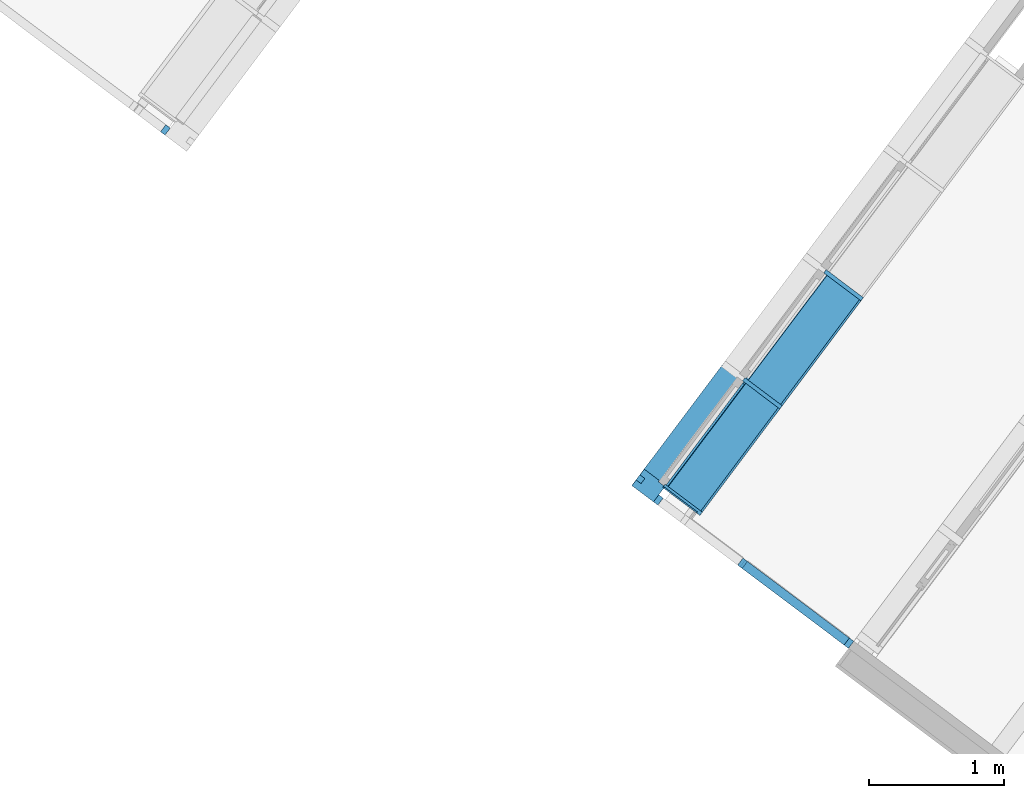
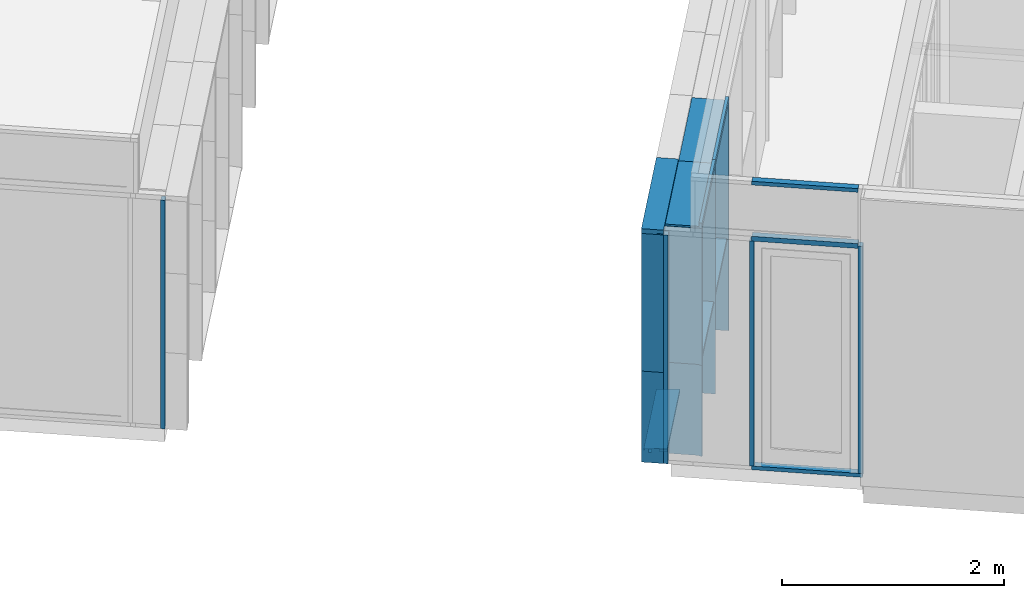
# One storey, part 1 of 243: 21 members, 4 elements without a shape of their own.
"""IFC2X3 building model written with IfcOpenShell, lengths in metres."""

from ifc_helpers import new_model, entity, si_unit, converted_unit, derived_unit, direction, frame, frame_2d, origin, place, context, subcontext, project, spatial, polyline, circle_curve, parameter, trimmed, segment, composite_curve, rectangle, outline, extrude, source, transform, mapped, material, type_object, type_shapes, element, aggregate, save


model = new_model("IFC2X3")

# Units and contexts
model_context = context("Model", 3, precision=1e-05, world=origin(), true_north=direction((6.123031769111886e-17, 1.0)))
body_context = subcontext(model_context, "Body", "Model", "MODEL_VIEW")
ifc_project = project(units=[si_unit("LENGTHUNIT", "METRE"), si_unit("AREAUNIT", "SQUARE_METRE"), si_unit("VOLUMEUNIT", "CUBIC_METRE"), converted_unit("PLANEANGLEUNIT", "DEGREE", entity("IfcRatioMeasure", 0.017453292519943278), si_unit("PLANEANGLEUNIT", "RADIAN"), dimensions=[0, 0, 0, 0, 0, 0, 0]), si_unit("MASSUNIT", "GRAM", prefix="KILO"), derived_unit("MASSDENSITYUNIT", [(si_unit("MASSUNIT", "GRAM", prefix="KILO"), 1), (si_unit("LENGTHUNIT", "METRE"), -3)]), derived_unit("IONCONCENTRATIONUNIT", [(si_unit("MASSUNIT", "GRAM", prefix="KILO"), 1), (si_unit("LENGTHUNIT", "METRE"), -3)]), derived_unit("MOMENTOFINERTIAUNIT", [(si_unit("LENGTHUNIT", "METRE"), 4)]), si_unit("TIMEUNIT", "SECOND"), si_unit("FREQUENCYUNIT", "HERTZ"), si_unit("THERMODYNAMICTEMPERATUREUNIT", "DEGREE_CELSIUS"), derived_unit("THERMALTRANSMITTANCEUNIT", [(si_unit("MASSUNIT", "GRAM", prefix="KILO"), 1), (si_unit("THERMODYNAMICTEMPERATUREUNIT", "KELVIN"), -1), (si_unit("TIMEUNIT", "SECOND"), -3)]), derived_unit("THERMALCONDUCTANCEUNIT", [(si_unit("MASSUNIT", "GRAM", prefix="KILO"), 1), (si_unit("THERMODYNAMICTEMPERATUREUNIT", "KELVIN"), -1), (si_unit("TIMEUNIT", "SECOND"), -3), (si_unit("LENGTHUNIT", "METRE"), 1)]), derived_unit("VOLUMETRICFLOWRATEUNIT", [(si_unit("LENGTHUNIT", "METRE"), 3), (si_unit("TIMEUNIT", "SECOND"), -1)]), derived_unit("MASSFLOWRATEUNIT", [(si_unit("MASSUNIT", "GRAM", prefix="KILO"), 1), (si_unit("TIMEUNIT", "SECOND"), -1)]), derived_unit("ROTATIONALFREQUENCYUNIT", [(si_unit("TIMEUNIT", "SECOND"), -1)]), si_unit("ELECTRICCURRENTUNIT", "AMPERE"), si_unit("ELECTRICVOLTAGEUNIT", "VOLT"), si_unit("POWERUNIT", "WATT"), si_unit("FORCEUNIT", "NEWTON", prefix="KILO"), si_unit("ILLUMINANCEUNIT", "LUX"), si_unit("LUMINOUSFLUXUNIT", "LUMEN"), si_unit("LUMINOUSINTENSITYUNIT", "CANDELA"), derived_unit("USERDEFINED", [(si_unit("MASSUNIT", "GRAM", prefix="KILO"), -1), (si_unit("LENGTHUNIT", "METRE"), -2), (si_unit("TIMEUNIT", "SECOND"), 3), (si_unit("LUMINOUSFLUXUNIT", "LUMEN"), 1)]), derived_unit("USERDEFINED", [(si_unit("MASSUNIT", "GRAM", prefix="KILO"), 1), (si_unit("TIMEUNIT", "SECOND"), -3), (si_unit("LENGTHUNIT", "METRE"), 3), (si_unit("ELECTRICCURRENTUNIT", "AMPERE"), -2)]), derived_unit("SOUNDPOWERUNIT", [(si_unit("MASSUNIT", "GRAM", prefix="KILO"), 1), (si_unit("TIMEUNIT", "SECOND"), -3), (si_unit("LENGTHUNIT", "METRE"), 2)]), derived_unit("SOUNDPRESSUREUNIT", [(si_unit("MASSUNIT", "GRAM", prefix="KILO"), 1), (si_unit("LENGTHUNIT", "METRE"), -1), (si_unit("TIMEUNIT", "SECOND"), -2)]), derived_unit("LINEARVELOCITYUNIT", [(si_unit("LENGTHUNIT", "METRE"), 1), (si_unit("TIMEUNIT", "SECOND"), -1)]), si_unit("PRESSUREUNIT", "PASCAL"), derived_unit("USERDEFINED", [(si_unit("MASSUNIT", "GRAM", prefix="KILO"), 1), (si_unit("LENGTHUNIT", "METRE"), -2), (si_unit("TIMEUNIT", "SECOND"), -2)]), derived_unit("LINEARFORCEUNIT", [(si_unit("MASSUNIT", "GRAM", prefix="KILO"), 1), (si_unit("TIMEUNIT", "SECOND"), -2)]), derived_unit("PLANARFORCEUNIT", [(si_unit("MASSUNIT", "GRAM", prefix="KILO"), 1), (si_unit("LENGTHUNIT", "METRE"), -1), (si_unit("TIMEUNIT", "SECOND"), -2)]), derived_unit("SPECIFICHEATCAPACITYUNIT", [(si_unit("THERMODYNAMICTEMPERATUREUNIT", "KELVIN"), -1), (si_unit("LENGTHUNIT", "METRE"), 2), (si_unit("TIMEUNIT", "SECOND"), -2)]), derived_unit("HEATINGVALUEUNIT", [(si_unit("LENGTHUNIT", "METRE"), 2), (si_unit("TIMEUNIT", "SECOND"), -2)]), derived_unit("VAPORPERMEABILITYUNIT", [(si_unit("LENGTHUNIT", "METRE"), -1), (si_unit("TIMEUNIT", "SECOND"), 1)]), derived_unit("DYNAMICVISCOSITYUNIT", [(si_unit("MASSUNIT", "GRAM", prefix="KILO"), 1), (si_unit("TIMEUNIT", "SECOND"), -1), (si_unit("LENGTHUNIT", "METRE"), -1)]), derived_unit("THERMALEXPANSIONCOEFFICIENTUNIT", [(si_unit("THERMODYNAMICTEMPERATUREUNIT", "KELVIN"), -1)]), derived_unit("MODULUSOFELASTICITYUNIT", [(si_unit("MASSUNIT", "GRAM", prefix="KILO"), 1), (si_unit("LENGTHUNIT", "METRE"), -1), (si_unit("TIMEUNIT", "SECOND"), -2)]), derived_unit("ISOTHERMALMOISTURECAPACITYUNIT", [(si_unit("LENGTHUNIT", "METRE"), 3), (si_unit("MASSUNIT", "GRAM", prefix="KILO"), -1)]), derived_unit("MOISTUREDIFFUSIVITYUNIT", [(si_unit("TIMEUNIT", "SECOND"), -1), (si_unit("LENGTHUNIT", "METRE"), 2)])], contexts=[model_context])

# Site, building, storey
site_placement = place(None, frame((0.0, 0.0, 235.0), z_axis=(0.0, 0.0, 1.0), x_axis=(-0.7996477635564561, 0.6004693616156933, 0.0)))
site = spatial("IfcSite", under=ifc_project, at=site_placement, Name="Default", CompositionType="ELEMENT")
building_placement = place(site_placement, origin())
building = spatial("IfcBuilding", under=site, at=building_placement, CompositionType="ELEMENT")
storey_placement = place(building_placement, origin())
storey = spatial("IfcBuildingStorey", under=building, at=storey_placement, Name="P0- Escola", CompositionType="ELEMENT", Elevation=0.0)

# Curtain wall, members
curtain_wall_type_1 = type_object("IfcCurtainWallType", Name="Muro cortina:MC- INT- k2", PredefinedType="NOTDEFINED")
curtain_wall_1_placement = place(storey_placement, origin())
curtain_wall_1 = element("IfcCurtainWall", 1, at=curtain_wall_1_placement, inside=storey, type_object=curtain_wall_type_1, Name="Muro cortina:MC- INT- k2", ObjectType="Muro cortina:MC- INT- k2")
ifc_material_1 = material(Name="_Fusta massisa- T1")
member_type_1 = type_object("IfcMemberType", Name="Montante rectangular:MC- Fusta- 35x3 cm- Pati aules- Remat esquerra", PredefinedType="MULLION", material=ifc_material_1)
shared_shape_1 = source(origin(), body_context, "Body", "SweptSolid", [
    extrude(outline(polyline([(-0.12500000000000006, -0.01666666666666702), (0.22000000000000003, -0.01666666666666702), (0.22000000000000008, 0.003333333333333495), (-0.09499999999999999, 0.003333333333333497), (-0.09500000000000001, 0.013333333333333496), (-0.12499999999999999, 0.013333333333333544), (-0.12500000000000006, -0.01666666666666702)])), frame((-0.013333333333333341, -0.030000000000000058, -1.5049999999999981), z_axis=(0.0, 0.0, 1.0), x_axis=(0.0, -1.0, 0.0)), (0.0, 0.0, 1.0), 1.5049999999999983),
])
type_shapes(member_type_1, [shared_shape_1])
member_1_placement = place(curtain_wall_1_placement, frame((36.345147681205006, -20.415191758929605, 2.5049999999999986), z_axis=(0.0, 0.0, 1.0), x_axis=(0.0, 1.0, 0.0)))
member_1 = element("IfcMember", 2, at=member_1_placement, type_object=member_type_1, material=ifc_material_1, Name="Montante rectangular:MC- Fusta- 35x3 cm- Pati aules- Remat esquerra", ObjectType="Montante rectangular:MC- Fusta- 35x3 cm- Pati aules- Remat esquerra", context=body_context, shape_type="MappedRepresentation", body=[
    mapped(shared_shape_1, transform((0.0, 0.0, 0.0), scale=1.0)),
])
member_type_2 = type_object("IfcMemberType", Name="Montante rectangular:MC- Fusta- 35x3 cm- Pati aules- Remat superior", PredefinedType="MULLION", material=ifc_material_1)
shared_shape_2 = source(origin(), body_context, "Body", "SweptSolid", [
    extrude(outline(polyline([(-0.12166666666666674, -0.02666666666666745), (0.21333333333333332, -0.02666666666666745), (0.2133333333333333, -0.006666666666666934), (-0.09166666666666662, -0.006666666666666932), (-0.09166666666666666, 0.03333333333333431), (-0.12166666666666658, 0.03333333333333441), (-0.12166666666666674, -0.02666666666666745)])), frame((-0.033333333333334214, -0.026666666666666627, -1.0), z_axis=(0.0, 0.0, 1.0), x_axis=(0.0, -1.0, 0.0)), (0.0, 0.0, 1.0), 0.9999999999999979),
])
type_shapes(member_type_2, [shared_shape_2])
member_2_placement = place(curtain_wall_1_placement, frame((36.345147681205, -21.415191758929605, 2.565), z_axis=(0.0, -1.0, 0.0), x_axis=(0.0, 0.0, 1.0)))
member_2 = element("IfcMember", 3, at=member_2_placement, type_object=member_type_2, material=ifc_material_1, Name="Montante rectangular:MC- Fusta- 35x3 cm- Pati aules- Remat superior", ObjectType="Montante rectangular:MC- Fusta- 35x3 cm- Pati aules- Remat superior", context=body_context, shape_type="MappedRepresentation", body=[
    mapped(shared_shape_2, transform((0.0, 0.0, 0.0), scale=1.0)),
])
member_type_3 = type_object("IfcMemberType", Name="Montante rectangular:MC- Fusta- 35x3 cm- Centre", PredefinedType="MULLION", material=ifc_material_1)
shared_shape_3 = source(origin(), body_context, "Body", "SweptSolid", [
    extrude(rectangle(XDim=0.3450000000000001, YDim=0.030000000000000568, at=frame_2d((0.0, -1.3964523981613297e-16), x_axis=(1.0, 0.0))), frame((0.0, -0.07750000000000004, -1.0), z_axis=(0.0, 0.0, 1.0), x_axis=(0.0, -1.0, 0.0)), (0.0, 0.0, 1.0), 1.0),
])
type_shapes(member_type_3, [shared_shape_3])
member_3_placement = place(curtain_wall_1_placement, frame((36.345147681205, -21.415191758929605, 0.0), z_axis=(0.0, 0.0, -1.0), x_axis=(0.0, -1.0, 0.0)))
member_3 = element("IfcMember", 4, at=member_3_placement, type_object=member_type_3, material=ifc_material_1, Name="Montante rectangular:MC- Fusta- 35x3 cm- Centre", ObjectType="Montante rectangular:MC- Fusta- 35x3 cm- Centre", context=body_context, shape_type="MappedRepresentation", body=[
    mapped(shared_shape_3, transform((0.0, 0.0, 0.0), scale=1.0)),
])
member_4_placement = place(curtain_wall_1_placement, frame((36.345147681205, -22.415191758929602, 0.0), z_axis=(0.0, 0.0, -1.0), x_axis=(0.0, -1.0, 0.0)))
member_4 = element("IfcMember", 5, at=member_4_placement, type_object=member_type_3, material=ifc_material_1, Name="Montante rectangular:MC- Fusta- 35x3 cm- Centre", ObjectType="Montante rectangular:MC- Fusta- 35x3 cm- Centre", context=body_context, shape_type="MappedRepresentation", body=[
    mapped(shared_shape_3, transform((0.0, 0.0, 0.0), scale=1.0)),
])
member_type_4 = type_object("IfcMemberType", Name="Montante rectangular:MC- Fusta- 35x3 cm- Pati aules- Remat superior", PredefinedType="MULLION", material=ifc_material_1)
shared_shape_4 = source(origin(), body_context, "Body", "SweptSolid", [
    extrude(outline(polyline([(-0.12166666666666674, -0.02666666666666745), (0.21333333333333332, -0.02666666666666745), (0.2133333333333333, -0.006666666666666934), (-0.09166666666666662, -0.006666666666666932), (-0.09166666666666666, 0.03333333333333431), (-0.12166666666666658, 0.03333333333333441), (-0.12166666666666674, -0.02666666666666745)])), frame((-0.033333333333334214, -0.026666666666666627, -1.0), z_axis=(0.0, 0.0, 1.0), x_axis=(0.0, -1.0, 0.0)), (0.0, 0.0, 1.0), 0.9999999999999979),
])
type_shapes(member_type_4, [shared_shape_4])
member_5_placement = place(curtain_wall_1_placement, frame((36.345147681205, -22.415191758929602, 2.565), z_axis=(0.0, -1.0, 0.0), x_axis=(0.0, 0.0, 1.0)))
member_5 = element("IfcMember", 6, at=member_5_placement, type_object=member_type_4, material=ifc_material_1, Name="Montante rectangular:MC- Fusta- 35x3 cm- Pati aules- Remat superior", ObjectType="Montante rectangular:MC- Fusta- 35x3 cm- Pati aules- Remat superior", context=body_context, shape_type="MappedRepresentation", body=[
    mapped(shared_shape_4, transform((0.0, 0.0, 0.0), scale=1.0)),
])
member_type_5 = type_object("IfcMemberType", Name="Montante rectangular:MC- Fusta- 35x3 cm- Pati aules- Remat esquerra", PredefinedType="MULLION", material=ifc_material_1)
shared_shape_5 = source(origin(), body_context, "Body", "SweptSolid", [
    extrude(outline(polyline([(-0.12500000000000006, -0.01666666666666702), (0.22000000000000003, -0.01666666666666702), (0.22000000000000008, 0.003333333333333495), (-0.09499999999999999, 0.003333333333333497), (-0.09500000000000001, 0.013333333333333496), (-0.12499999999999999, 0.013333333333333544), (-0.12500000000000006, -0.01666666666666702)])), frame((-0.013333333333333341, -0.030000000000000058, -1.0), z_axis=(0.0, 0.0, 1.0), x_axis=(0.0, -1.0, 0.0)), (0.0, 0.0, 1.0), 0.9999999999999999),
])
type_shapes(member_type_5, [shared_shape_5])
member_6_placement = place(curtain_wall_1_placement, frame((36.345147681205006, -20.415191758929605, 1.0), z_axis=(0.0, 0.0, 1.0), x_axis=(0.0, 1.0, 0.0)))
member_6 = element("IfcMember", 7, at=member_6_placement, type_object=member_type_5, material=ifc_material_1, Name="Montante rectangular:MC- Fusta- 35x3 cm- Pati aules- Remat esquerra", ObjectType="Montante rectangular:MC- Fusta- 35x3 cm- Pati aules- Remat esquerra", context=body_context, shape_type="MappedRepresentation", body=[
    mapped(shared_shape_5, transform((0.0, 0.0, 0.0), scale=1.0)),
])
member_type_6 = type_object("IfcMemberType", Name="Montante rectangular:MC- Fusta- 35x3 cm- Pati aules- Prestatge", PredefinedType="MULLION", material=ifc_material_1)
shared_shape_6 = source(origin(), body_context, "Body", "SweptSolid", [
    extrude(rectangle(XDim=0.30000000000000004, YDim=0.03000000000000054, at=frame_2d((0.0, -1.231653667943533e-16), x_axis=(1.0, 0.0))), frame((0.0, -0.07000000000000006, -0.9549999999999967), z_axis=(0.0, 0.0, 1.0), x_axis=(0.0, -1.0, 0.0)), (0.0, 0.0, 1.0), 0.954999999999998),
])
type_shapes(member_type_6, [shared_shape_6])
member_7_placement = place(curtain_wall_1_placement, frame((36.345147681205, -21.4001917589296, 1.0), z_axis=(0.0, -1.0, 0.0), x_axis=(0.0, 0.0, 1.0)))
member_7 = element("IfcMember", 8, at=member_7_placement, type_object=member_type_6, material=ifc_material_1, Name="Montante rectangular:MC- Fusta- 35x3 cm- Pati aules- Prestatge", ObjectType="Montante rectangular:MC- Fusta- 35x3 cm- Pati aules- Prestatge", context=body_context, shape_type="MappedRepresentation", body=[
    mapped(shared_shape_6, transform((0.0, 0.0, 0.0), scale=1.0)),
])
member_type_7 = type_object("IfcMemberType", Name="Montante rectangular:MC- Fusta- 35x3 cm- Pati aules- Prestatge", PredefinedType="MULLION", material=ifc_material_1)
shared_shape_7 = source(origin(), body_context, "Body", "SweptSolid", [
    extrude(rectangle(XDim=0.30000000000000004, YDim=0.03000000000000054, at=frame_2d((0.0, -1.231653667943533e-16), x_axis=(1.0, 0.0))), frame((0.0, -0.07000000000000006, -0.9699999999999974), z_axis=(0.0, 0.0, 1.0), x_axis=(0.0, -1.0, 0.0)), (0.0, 0.0, 1.0), 0.969999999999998),
])
type_shapes(member_type_7, [shared_shape_7])
member_8_placement = place(curtain_wall_1_placement, frame((36.345147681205, -22.4001917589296, 1.0), z_axis=(0.0, -1.0, 0.0), x_axis=(0.0, 0.0, 1.0)))
member_8 = element("IfcMember", 9, at=member_8_placement, type_object=member_type_7, material=ifc_material_1, Name="Montante rectangular:MC- Fusta- 35x3 cm- Pati aules- Prestatge", ObjectType="Montante rectangular:MC- Fusta- 35x3 cm- Pati aules- Prestatge", context=body_context, shape_type="MappedRepresentation", body=[
    mapped(shared_shape_7, transform((0.0, 0.0, 0.0), scale=1.0)),
])
member_type_8 = type_object("IfcMemberType", Name="Montante rectangular:MC- Fusta- 35x3 cm- Centre", PredefinedType="MULLION", material=ifc_material_1)
shared_shape_8 = source(origin(), body_context, "Body", "SweptSolid", [
    extrude(rectangle(XDim=0.3450000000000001, YDim=0.030000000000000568, at=frame_2d((0.0, -1.3964523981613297e-16), x_axis=(1.0, 0.0))), frame((0.0, -0.07750000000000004, -1.504999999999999), z_axis=(0.0, 0.0, 1.0), x_axis=(0.0, -1.0, 0.0)), (0.0, 0.0, 1.0), 1.504999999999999),
])
type_shapes(member_type_8, [shared_shape_8])
member_9_placement = place(curtain_wall_1_placement, frame((36.345147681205, -21.415191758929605, 1.0), z_axis=(0.0, 0.0, -1.0), x_axis=(0.0, -1.0, 0.0)))
member_9 = element("IfcMember", 10, at=member_9_placement, type_object=member_type_8, material=ifc_material_1, Name="Montante rectangular:MC- Fusta- 35x3 cm- Centre", ObjectType="Montante rectangular:MC- Fusta- 35x3 cm- Centre", context=body_context, shape_type="MappedRepresentation", body=[
    mapped(shared_shape_8, transform((0.0, 0.0, 0.0), scale=1.0)),
])
member_10_placement = place(curtain_wall_1_placement, frame((36.345147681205, -22.415191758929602, 1.0), z_axis=(0.0, 0.0, -1.0), x_axis=(0.0, -1.0, 0.0)))
member_10 = element("IfcMember", 11, at=member_10_placement, type_object=member_type_8, material=ifc_material_1, Name="Montante rectangular:MC- Fusta- 35x3 cm- Centre", ObjectType="Montante rectangular:MC- Fusta- 35x3 cm- Centre", context=body_context, shape_type="MappedRepresentation", body=[
    mapped(shared_shape_8, transform((0.0, 0.0, 0.0), scale=1.0)),
])
aggregate(curtain_wall_1, [member_1, member_2, member_3, member_5, member_4, member_6, member_7, member_8, member_9, member_10])

curtain_wall_type_2 = type_object("IfcCurtainWallType", Name="Muro cortina:MC- EXT- AL1- Fa porxo", PredefinedType="NOTDEFINED")
curtain_wall_2_placement = place(storey_placement, origin())
curtain_wall_2 = element("IfcCurtainWall", 12, at=curtain_wall_2_placement, inside=storey, type_object=curtain_wall_type_2, Name="Muro cortina:MC- EXT- AL1- Fa porxo", ObjectType="Muro cortina:MC- EXT- AL1- Fa porxo")
ifc_material_2 = material(Name="_Alumini- T1- Perfil")
member_type_9 = type_object("IfcMemberType", Name="Montante rectangular:MC- Alu- 65x41 cm- Fa Porxo- Centre", PredefinedType="MULLION", material=ifc_material_2)
shared_shape_9 = source(origin(), body_context, "Body", "SweptSolid", [
    extrude(rectangle(XDim=0.06500000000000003, YDim=0.041000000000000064, at=frame_2d((0.0, -8.673617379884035e-18), x_axis=(1.0, 0.0))), frame((-0.020500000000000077, -0.032499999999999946, -0.9639999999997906), z_axis=(0.0, 0.0, 1.0), x_axis=(0.0, -1.0, 0.0)), (0.0, 0.0, 1.0), 0.963999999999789),
])
type_shapes(member_type_9, [shared_shape_9])
member_11_placement = place(curtain_wall_2_placement, frame((34.82114768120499, -20.288941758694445, 3.150000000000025), z_axis=(-1.0, 0.0, 0.0), x_axis=(0.0, 0.0, 1.0)))
member_11 = element("IfcMember", 13, at=member_11_placement, type_object=member_type_9, material=ifc_material_2, Name="Montante rectangular:MC- Alu- 65x41 cm- Fa Porxo- Centre", ObjectType="Montante rectangular:MC- Alu- 65x41 cm- Fa Porxo- Centre", context=body_context, shape_type="MappedRepresentation", body=[
    mapped(shared_shape_9, transform((0.0, 0.0, 0.0), scale=1.0)),
])
member_type_10 = type_object("IfcMemberType", Name="Montante rectangular:MC- Alu- 65x41 cm- Fa Porxo- Centre", PredefinedType="MULLION", material=ifc_material_2)
shared_shape_10 = source(origin(), body_context, "Body", "SweptSolid", [
    extrude(rectangle(XDim=0.06500000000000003, YDim=0.041000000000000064, at=frame_2d((0.0, -8.673617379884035e-18), x_axis=(1.0, 0.0))), frame((-0.020500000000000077, -0.032499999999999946, -2.4977500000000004), z_axis=(0.0, 0.0, 1.0), x_axis=(0.0, -1.0, 0.0)), (0.0, 0.0, 1.0), 2.4977500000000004),
])
type_shapes(member_type_10, [shared_shape_10])
member_12_placement = place(curtain_wall_2_placement, frame((34.780147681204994, -20.288941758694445, 0.021000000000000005), z_axis=(0.0, 0.0, -1.0), x_axis=(-1.0, 0.0, 0.0)))
member_12 = element("IfcMember", 14, at=member_12_placement, type_object=member_type_10, material=ifc_material_2, Name="Montante rectangular:MC- Alu- 65x41 cm- Fa Porxo- Centre", ObjectType="Montante rectangular:MC- Alu- 65x41 cm- Fa Porxo- Centre", context=body_context, shape_type="MappedRepresentation", body=[
    mapped(shared_shape_10, transform((0.0, 0.0, 0.0), scale=1.0)),
])
member_type_11 = type_object("IfcMemberType", Name="Montante rectangular:MC- Alu- 65x41 cm- Fa Porxo- Centre", PredefinedType="MULLION", material=ifc_material_2)
shared_shape_11 = source(origin(), body_context, "Body", "SweptSolid", [
    extrude(rectangle(XDim=0.06500000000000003, YDim=0.041000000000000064, at=frame_2d((3.469446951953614e-18, -5.204170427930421e-18), x_axis=(1.0, 0.0))), frame((-0.020499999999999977, -0.032499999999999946, -2.5122499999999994), z_axis=(0.0, 0.0, 1.0), x_axis=(0.0, -1.0, 0.0)), (0.0, 0.0, 1.0), 2.5122499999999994),
])
type_shapes(member_type_11, [shared_shape_11])
member_13_placement = place(curtain_wall_2_placement, frame((36.58514768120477, -20.28894175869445, 2.49225)))
member_13 = element("IfcMember", 15, at=member_13_placement, type_object=member_type_11, material=ifc_material_2, Name="Montante rectangular:MC- Alu- 65x41 cm- Fa Porxo- Centre", ObjectType="Montante rectangular:MC- Alu- 65x41 cm- Fa Porxo- Centre", context=body_context, shape_type="MappedRepresentation", body=[
    mapped(shared_shape_11, transform((0.0, 0.0, 0.0), scale=1.0)),
])
member_type_12 = type_object("IfcMemberType", Name="Montante rectangular:MC- Alu- 65x41 cm- Fa Porxo- Centre", PredefinedType="MULLION", material=ifc_material_2)
shared_shape_12 = source(origin(), body_context, "Body", "SweptSolid", [
    extrude(rectangle(XDim=0.06500000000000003, YDim=0.041000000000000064, at=frame_2d((3.469446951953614e-18, -5.204170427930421e-18), x_axis=(1.0, 0.0))), frame((-0.020499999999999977, -0.032499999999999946, -1.004999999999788), z_axis=(0.0, 0.0, 1.0), x_axis=(0.0, -1.0, 0.0)), (0.0, 0.0, 1.0), 1.004999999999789),
])
type_shapes(member_type_12, [shared_shape_12])
member_14_placement = place(curtain_wall_2_placement, frame((35.78514768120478, -20.28894175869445, -0.02000000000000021), z_axis=(1.0, 0.0, 0.0), x_axis=(0.0, 0.0, -1.0)))
member_14 = element("IfcMember", 16, at=member_14_placement, type_object=member_type_12, material=ifc_material_2, Name="Montante rectangular:MC- Alu- 65x41 cm- Fa Porxo- Centre", ObjectType="Montante rectangular:MC- Alu- 65x41 cm- Fa Porxo- Centre", context=body_context, shape_type="MappedRepresentation", body=[
    mapped(shared_shape_12, transform((0.0, 0.0, 0.0), scale=1.0)),
])
member_type_13 = type_object("IfcMemberType", Name="Montante rectangular:MC- Alu- 65x52,5 cm- Fa Porxo- Centre", PredefinedType="MULLION", material=ifc_material_2)
shared_shape_13 = source(origin(), body_context, "Body", "SweptSolid", [
    extrude(rectangle(XDim=0.06500000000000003, YDim=0.05300000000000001, at=frame_2d((3.469446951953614e-18, 3.469446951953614e-18), x_axis=(1.0, 0.0))), frame((0.0, -0.03249999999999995, -0.96399999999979), z_axis=(0.0, 0.0, 1.0), x_axis=(0.0, -1.0, 0.0)), (0.0, 0.0, 1.0), 0.9639999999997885),
])
type_shapes(member_type_13, [shared_shape_13])
member_15_placement = place(curtain_wall_2_placement, frame((34.82114768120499, -20.288941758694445, 2.51875), z_axis=(-1.0, 0.0, 0.0), x_axis=(0.0, 0.0, 1.0)))
member_15 = element("IfcMember", 17, at=member_15_placement, type_object=member_type_13, material=ifc_material_2, Name="Montante rectangular:MC- Alu- 65x52,5 cm- Fa Porxo- Centre", ObjectType="Montante rectangular:MC- Alu- 65x52,5 cm- Fa Porxo- Centre", context=body_context, shape_type="MappedRepresentation", body=[
    mapped(shared_shape_13, transform((0.0, 0.0, 0.0), scale=1.0)),
])
member_type_14 = type_object("IfcMemberType", Name="Montante rectangular:MC- Alu- 65x41 cm- Fa Porxo- Centre", PredefinedType="MULLION", material=ifc_material_2)
shared_shape_14 = source(origin(), body_context, "Body", "SweptSolid", [
    extrude(rectangle(XDim=0.06500000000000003, YDim=0.04100000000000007, at=frame_2d((0.0, -8.673617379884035e-18), x_axis=(1.0, 0.0))), frame((0.0, -0.032499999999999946, -2.4712500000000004), z_axis=(0.0, 0.0, 1.0), x_axis=(0.0, -1.0, 0.0)), (0.0, 0.0, 1.0), 2.4712500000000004),
])
type_shapes(member_type_14, [shared_shape_14])
member_16_placement = place(curtain_wall_2_placement, frame((35.78514768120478, -20.28894175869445, 0.020999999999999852), z_axis=(0.0, 0.0, -1.0), x_axis=(-1.0, 0.0, 0.0)))
member_16 = element("IfcMember", 18, at=member_16_placement, type_object=member_type_14, material=ifc_material_2, Name="Montante rectangular:MC- Alu- 65x41 cm- Fa Porxo- Centre", ObjectType="Montante rectangular:MC- Alu- 65x41 cm- Fa Porxo- Centre", context=body_context, shape_type="MappedRepresentation", body=[
    mapped(shared_shape_14, transform((0.0, 0.0, 0.0), scale=1.0)),
])
aggregate(curtain_wall_2, [member_11, member_12, member_13, member_14, member_15, member_16])

curtain_wall_type_3 = type_object("IfcCurtainWallType", Name="Muro cortina:MC- EXT- MC5", PredefinedType="NOTDEFINED")
curtain_wall_3_placement = place(storey_placement, origin())
curtain_wall_3 = element("IfcCurtainWall", 19, at=curtain_wall_3_placement, inside=storey, type_object=curtain_wall_type_3, Name="Muro cortina:MC- EXT- MC5", ObjectType="Muro cortina:MC- EXT- MC5")
member_type_15 = type_object("IfcMemberType", Name="Montante rectangular:MC- Alu- 140x52,5 cm- Fa patis- inferior", PredefinedType="MULLION", material=ifc_material_2)
shared_shape_15 = source(origin(), body_context, "Body", "SweptSolid", [
    extrude(outline(composite_curve([segment(polyline([(-0.144167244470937, -0.02586710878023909), (-0.12786724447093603, -0.025867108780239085)]), True, "CONTINUOUS"), segment(polyline([(-0.12786724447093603, -0.025867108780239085), (-0.12786724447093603, -0.02316710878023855)]), True, "CONTINUOUS"), segment(polyline([(-0.12786724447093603, -0.02316710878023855), (-0.0678672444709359, -0.02316710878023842)]), True, "CONTINUOUS"), segment(polyline([(-0.0678672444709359, -0.02316710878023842), (0.07031215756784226, -0.010722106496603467)]), True, "CONTINUOUS"), segment(trimmed(circle_curve(frame_2d((0.07013275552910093, -0.008730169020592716), x_axis=(0.0897010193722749, -0.9959687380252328)), 0.0019999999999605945), [parameter(0.0)], [parameter(84.8535928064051)], True, "PARAMETER"), True, "CONTINUOUS"), segment(polyline([(0.07213275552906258, -0.00873016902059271), (0.07213275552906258, 0.0062663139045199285)]), True, "CONTINUOUS"), segment(trimmed(circle_curve(frame_2d((0.070132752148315, 0.006266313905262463), x_axis=(1.0, 0.0)), 0.002000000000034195), [parameter(0.0)], [parameter(90.00000002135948)], True, "PARAMETER"), True, "CONTINUOUS"), segment(polyline([(0.070132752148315, 0.00826631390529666), (0.06213275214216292, 0.008266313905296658)]), True, "CONTINUOUS"), segment(polyline([(0.06213275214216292, 0.008266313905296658), (0.06213275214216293, 0.006266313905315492)]), True, "CONTINUOUS"), segment(polyline([(0.06213275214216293, 0.006266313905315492), (0.06963275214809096, 0.006266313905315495)]), True, "CONTINUOUS"), segment(trimmed(circle_curve(frame_2d((0.06963275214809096, 0.005766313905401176), x_axis=(0.0, 1.0)), 0.0004999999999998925), [parameter(269.99999999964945)], [parameter(0.0)], True, "PARAMETER"), False, "CONTINUOUS"), segment(polyline([(0.07013275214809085, 0.0057663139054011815), (0.07013275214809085, -0.008730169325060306)]), True, "CONTINUOUS"), segment(polyline([(0.07013275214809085, -0.008730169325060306), (0.03213275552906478, -0.012152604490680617)]), True, "CONTINUOUS"), segment(polyline([(0.03213275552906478, -0.012152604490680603), (0.03213275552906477, 0.02913289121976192)]), True, "CONTINUOUS"), segment(polyline([(0.03213275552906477, 0.02913289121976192), (0.0021327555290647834, 0.02913289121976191)]), True, "CONTINUOUS"), segment(polyline([(0.0021327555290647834, 0.02913289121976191), (0.0021327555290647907, 0.027132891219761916)]), True, "CONTINUOUS"), segment(polyline([(0.0021327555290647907, 0.027132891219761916), (0.03013275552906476, 0.027132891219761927)]), True, "CONTINUOUS"), segment(polyline([(0.03013275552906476, 0.02713289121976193), (0.03013275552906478, -0.012332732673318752)]), True, "CONTINUOUS"), segment(polyline([(0.03013275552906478, -0.012332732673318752), (-0.06786724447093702, -0.021159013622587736)]), True, "CONTINUOUS"), segment(polyline([(-0.06786724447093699, -0.021159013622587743), (-0.067867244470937, 0.0091328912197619)]), True, "CONTINUOUS"), segment(polyline([(-0.06786724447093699, 0.0091328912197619), (-0.14416724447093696, 0.009132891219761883)]), True, "CONTINUOUS"), segment(polyline([(-0.14416724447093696, 0.009132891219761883), (-0.144167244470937, -0.02586710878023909)]), True, "CONTINUOUS")], self_intersect=False)), frame((-0.029132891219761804, -0.06786724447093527, -0.9474999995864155), z_axis=(0.0, 0.0, 1.0), x_axis=(0.0, -1.0, 0.0)), (0.0, 0.0, 1.0), 0.9474999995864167),
])
type_shapes(member_type_15, [shared_shape_15])
member_17_placement = place(curtain_wall_3_placement, frame((36.6451476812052, -20.441441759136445, -0.02), z_axis=(0.0, 1.0, 0.0), x_axis=(0.0, 0.0, -1.0)))
member_17 = element("IfcMember", 20, at=member_17_placement, type_object=member_type_15, material=ifc_material_2, Name="Montante rectangular:MC- Alu- 140x52,5 cm- Fa patis- inferior", ObjectType="Montante rectangular:MC- Alu- 140x52,5 cm- Fa patis- inferior", context=body_context, shape_type="MappedRepresentation", body=[
    mapped(shared_shape_15, transform((0.0, 0.0, 0.0), scale=1.0)),
])
member_type_16 = type_object("IfcMemberType", Name="Montante rectangular:MC- Alu- 140x52,5 cm- Fa patis- Superior", PredefinedType="MULLION", material=ifc_material_2)
shared_shape_16 = source(origin(), body_context, "Body", "SweptSolid", [
    extrude(outline(polyline([(-0.026333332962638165, -0.021249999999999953), (0.11366666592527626, -0.021249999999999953), (0.11366666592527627, 0.031250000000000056), (-0.08733333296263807, 0.03125000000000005), (-0.0873333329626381, -0.010000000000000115), (-0.026333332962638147, -0.010000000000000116), (-0.026333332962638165, -0.021249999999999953)])), frame((-0.031250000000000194, -0.02733333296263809, -1.1262500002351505), z_axis=(0.0, 0.0, 1.0), x_axis=(0.0, -1.0, 0.0)), (0.0, 0.0, 1.0), 1.1262500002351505),
])
type_shapes(member_type_16, [shared_shape_16])
member_18_placement = place(curtain_wall_3_placement, frame((36.6451476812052, -21.41519175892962, 2.545), z_axis=(0.0, -1.0, 0.0), x_axis=(0.0, 0.0, 1.0)))
member_18 = element("IfcMember", 21, at=member_18_placement, type_object=member_type_16, material=ifc_material_2, Name="Montante rectangular:MC- Alu- 140x52,5 cm- Fa patis- Superior", ObjectType="Montante rectangular:MC- Alu- 140x52,5 cm- Fa patis- Superior", context=body_context, shape_type="MappedRepresentation", body=[
    mapped(shared_shape_16, transform((0.0, 0.0, 0.0), scale=1.0)),
])

# Curtain wall, member
curtain_wall_4_placement = place(storey_placement, origin())
curtain_wall_4 = element("IfcCurtainWall", 22, at=curtain_wall_4_placement, inside=storey, type_object=curtain_wall_type_2, Name="Muro cortina:MC- EXT- AL1- Fa porxo", ObjectType="Muro cortina:MC- EXT- AL1- Fa porxo")
member_type_17 = type_object("IfcMemberType", Name="Montante rectangular:MC- Alu- 65x41 cm- Fa Porxo- Centre", PredefinedType="MULLION", material=ifc_material_2)
shared_shape_17 = source(origin(), body_context, "Body", "SweptSolid", [
    extrude(rectangle(XDim=0.06500000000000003, YDim=0.041000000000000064, at=frame_2d((0.0, 3.469446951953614e-18), x_axis=(1.0, 0.0))), frame((-0.02049999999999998, 0.03249999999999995, -2.5122499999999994), z_axis=(0.0, 0.0, 1.0), x_axis=(0.0, -1.0, 0.0)), (0.0, 0.0, 1.0), 2.5122499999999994),
])
type_shapes(member_type_17, [shared_shape_17])
member_19_placement = place(curtain_wall_4_placement, frame((41.10514768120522, -20.28894175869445, 2.49225), z_axis=(0.0, 0.0, 1.0), x_axis=(-1.0, 0.0, 0.0)))
member_19 = element("IfcMember", 23, at=member_19_placement, type_object=member_type_17, material=ifc_material_2, Name="Montante rectangular:MC- Alu- 65x41 cm- Fa Porxo- Centre", ObjectType="Montante rectangular:MC- Alu- 65x41 cm- Fa Porxo- Centre", context=body_context, shape_type="MappedRepresentation", body=[
    mapped(shared_shape_17, transform((0.0, 0.0, 0.0), scale=1.0)),
])
aggregate(curtain_wall_4, [member_19])

# Member
member_type_18 = type_object("IfcMemberType", Name="Montante rectangular:MC- Alu- 140x52,5 cm- Fa patis- Cantonada", PredefinedType="MULLION", material=ifc_material_2)
shared_shape_18 = source(origin(), body_context, "Body", "SweptSolid", [
    extrude(outline(polyline([(-0.04333333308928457, -0.05708333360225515), (0.09566666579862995, -0.05708333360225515), (0.09566666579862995, -0.004583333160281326), (0.05066666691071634, -0.004583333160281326), (0.050666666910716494, 0.042916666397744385), (0.09566666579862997, 0.042916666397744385), (0.09566666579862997, 0.09541666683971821), (-0.1043333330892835, 0.09541666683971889), (-0.1043333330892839, -0.03083333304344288), (-0.09433333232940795, -0.030833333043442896), (-0.094333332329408, -0.04583333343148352), (-0.04333333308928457, -0.0458333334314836), (-0.04333333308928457, -0.05708333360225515)])), frame((-0.09541666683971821, -0.0443333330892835, -1.0), z_axis=(0.0, 0.0, 1.0), x_axis=(0.0, -1.0, 0.0)), (0.0, 0.0, 1.0), 0.9999999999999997),
])
type_shapes(member_type_18, [shared_shape_18])
member_20_placement = place(curtain_wall_3_placement, frame((36.6451476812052, -20.28894175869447, 0.9799999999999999), z_axis=(0.0, 0.0, 1.0), x_axis=(0.0, 1.0, 0.0)))
member_20 = element("IfcMember", 24, at=member_20_placement, type_object=member_type_18, material=ifc_material_2, Name="Montante rectangular:MC- Alu- 140x52,5 cm- Fa patis- Cantonada", ObjectType="Montante rectangular:MC- Alu- 140x52,5 cm- Fa patis- Cantonada", context=body_context, shape_type="MappedRepresentation", body=[
    mapped(shared_shape_18, transform((0.0, 0.0, 0.0), scale=1.0)),
])

member_type_19 = type_object("IfcMemberType", Name="Montante rectangular:MC- Alu- 140x52,5 cm- Fa patis- Cantonada", PredefinedType="MULLION", material=ifc_material_2)
shared_shape_19 = source(origin(), body_context, "Body", "SweptSolid", [
    extrude(outline(polyline([(-0.04333333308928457, -0.05708333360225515), (0.09566666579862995, -0.05708333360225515), (0.09566666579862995, -0.004583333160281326), (0.05066666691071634, -0.004583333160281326), (0.050666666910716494, 0.042916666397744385), (0.09566666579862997, 0.042916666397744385), (0.09566666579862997, 0.09541666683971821), (-0.1043333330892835, 0.09541666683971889), (-0.1043333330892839, -0.03083333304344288), (-0.09433333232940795, -0.030833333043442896), (-0.094333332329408, -0.04583333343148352), (-0.04333333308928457, -0.0458333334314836), (-0.04333333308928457, -0.05708333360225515)])), frame((-0.09541666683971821, -0.0443333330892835, -1.5125000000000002), z_axis=(0.0, 0.0, 1.0), x_axis=(0.0, -1.0, 0.0)), (0.0, 0.0, 1.0), 1.5125),
])
type_shapes(member_type_19, [shared_shape_19])
member_21_placement = place(curtain_wall_3_placement, frame((36.6451476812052, -20.28894175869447, 2.4924999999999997), z_axis=(0.0, 0.0, 1.0), x_axis=(0.0, 1.0, 0.0)))
member_21 = element("IfcMember", 25, at=member_21_placement, type_object=member_type_19, material=ifc_material_2, Name="Montante rectangular:MC- Alu- 140x52,5 cm- Fa patis- Cantonada", ObjectType="Montante rectangular:MC- Alu- 140x52,5 cm- Fa patis- Cantonada", context=body_context, shape_type="MappedRepresentation", body=[
    mapped(shared_shape_19, transform((0.0, 0.0, 0.0), scale=1.0)),
])

aggregate(curtain_wall_3, [member_17, member_18, member_20, member_21])

save(model, "model.ifc")
